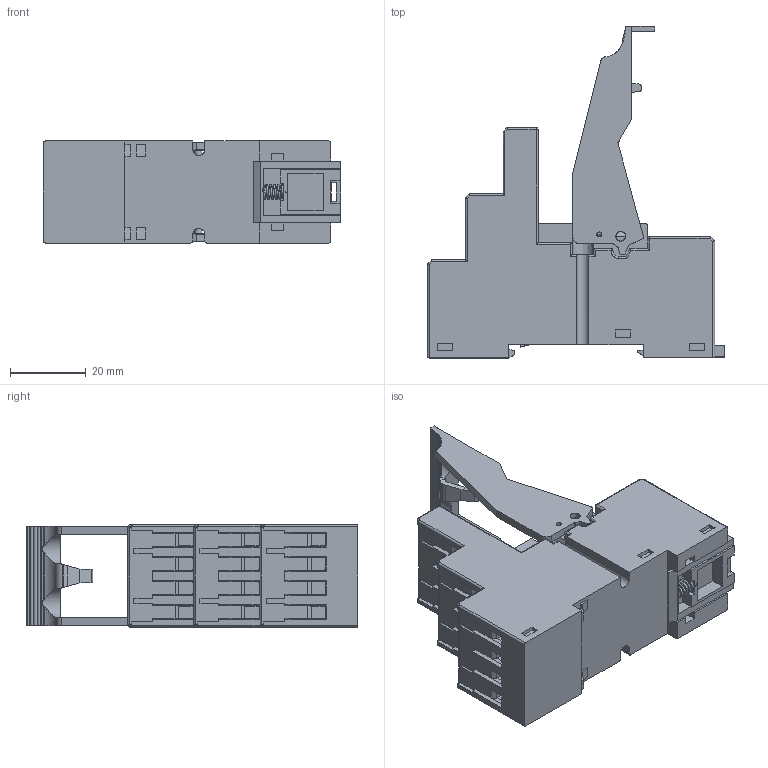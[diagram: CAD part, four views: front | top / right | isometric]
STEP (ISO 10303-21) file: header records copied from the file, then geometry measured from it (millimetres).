
FILE_DESCRIPTION(('STEP AP214'),'2;1');
FILE_NAME('9404+leva_catalogo.stp','2010-09-07T16:04:19',(''),(''),'2007.1.106','THINKDESIGN','');
FILE_SCHEMA(('AUTOMOTIVE_DESIGN'));
Products named in the file (1): None
Bounding box: 78.6 x 87.81 x 27 mm (x, y, z)
Surface area: 27571.1 mm2 (no closed solid volume)
Topology: 0 solids, 0 shells, 1074 faces, 5858 edges, 5847 vertices
Faces by surface type: plane 839, cylinder 184, bspline 51
Full cylindrical faces by diameter (mm): 0.9 x1, 1.3 x2, 2.5 x1, 2.6 x2, 3 x1, 4.7 x14, 5 x14
Entity records: 59803 total; most frequent: CARTESIAN_POINT 16790, DIRECTION 7534, COMPOSITE_CURVE_SEGMENT 5852, TRIMMED_CURVE 5133, VECTOR 4794, LINE 4794, AXIS2_PLACEMENT_3D 1370, OUTER_BOUNDARY_CURVE 1074
